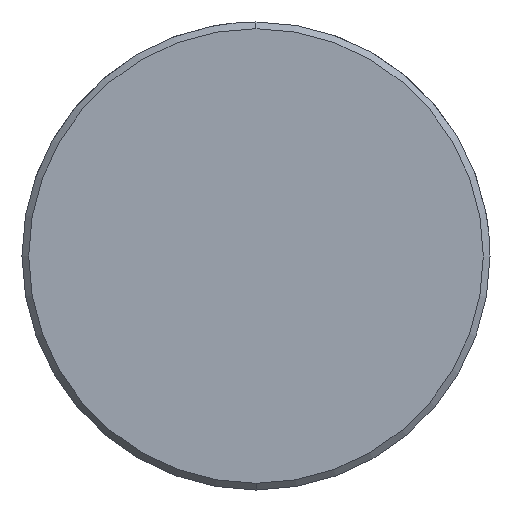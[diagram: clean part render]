
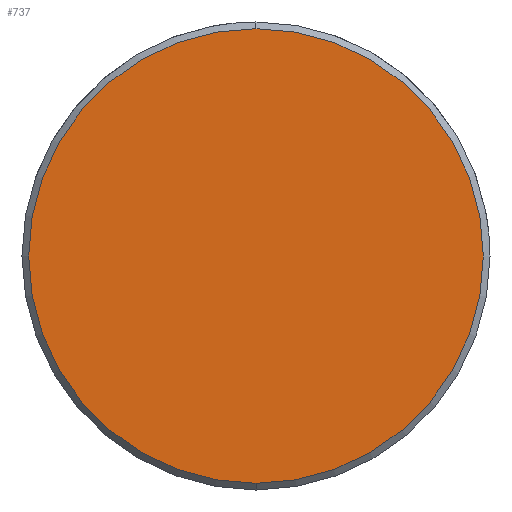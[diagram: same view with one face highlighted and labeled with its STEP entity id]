
A CAD part, left-side view. The second image highlights one B-rep face of the part: STEP entity #737.
In plain terms, the highlighted planar face has unit normal (-1, 0, 0).
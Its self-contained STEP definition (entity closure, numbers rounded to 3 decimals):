
#669=CARTESIAN_POINT('Vertex',(0.,0.,-10.2)) ;
#672=CARTESIAN_POINT('Axis2P3D Location',(0.,0.,0.)) ;
#676=CARTESIAN_POINT('Vertex',(0.,10.2,0.)) ;
#679=CARTESIAN_POINT('Axis2P3D Location',(0.,0.,0.)) ;
#683=CARTESIAN_POINT('Vertex',(0.,0.,10.2)) ;
#705=CARTESIAN_POINT('Axis2P3D Location',(0.,0.,0.)) ;
#709=CARTESIAN_POINT('Vertex',(0.,-10.2,0.)) ;
#712=CARTESIAN_POINT('Axis2P3D Location',(0.,0.,0.)) ;
#726=CARTESIAN_POINT('Axis2P3D Location',(0.,0.,0.)) ;
#673=DIRECTION('Axis2P3D Direction',(1.,0.,-0.)) ;
#680=DIRECTION('Axis2P3D Direction',(1.,0.,-0.)) ;
#706=DIRECTION('Axis2P3D Direction',(1.,0.,-0.)) ;
#713=DIRECTION('Axis2P3D Direction',(1.,0.,-0.)) ;
#727=DIRECTION('Axis2P3D Direction',(1.,0.,-0.)) ;
#728=DIRECTION('Axis2P3D XDirection',(-0.,0.,-1.)) ;
#674=AXIS2_PLACEMENT_3D('Circle Axis2P3D',#672,#673,$) ;
#681=AXIS2_PLACEMENT_3D('Circle Axis2P3D',#679,#680,$) ;
#707=AXIS2_PLACEMENT_3D('Circle Axis2P3D',#705,#706,$) ;
#714=AXIS2_PLACEMENT_3D('Circle Axis2P3D',#712,#713,$) ;
#729=AXIS2_PLACEMENT_3D('Plane Axis2P3D',#726,#727,#728) ;
#732=ORIENTED_EDGE('',*,*,#678,.F.) ;
#733=ORIENTED_EDGE('',*,*,#716,.F.) ;
#734=ORIENTED_EDGE('',*,*,#711,.F.) ;
#735=ORIENTED_EDGE('',*,*,#685,.F.) ;
#737=ADVANCED_FACE('549-18X240',(#736),#730,.F.) ;
#675=CIRCLE('generated circle',#674,10.2) ;
#682=CIRCLE('generated circle',#681,10.2) ;
#708=CIRCLE('generated circle',#707,10.2) ;
#715=CIRCLE('generated circle',#714,10.2) ;
#678=EDGE_CURVE('',#670,#677,#675,.T.) ;
#685=EDGE_CURVE('',#677,#684,#682,.T.) ;
#711=EDGE_CURVE('',#684,#710,#708,.T.) ;
#716=EDGE_CURVE('',#710,#670,#715,.T.) ;
#731=EDGE_LOOP('',(#732,#733,#734,#735)) ;
#736=FACE_OUTER_BOUND('',#731,.T.) ;
#730=PLANE('Plane',#729) ;
#670=VERTEX_POINT('',#669) ;
#677=VERTEX_POINT('',#676) ;
#684=VERTEX_POINT('',#683) ;
#710=VERTEX_POINT('',#709) ;
